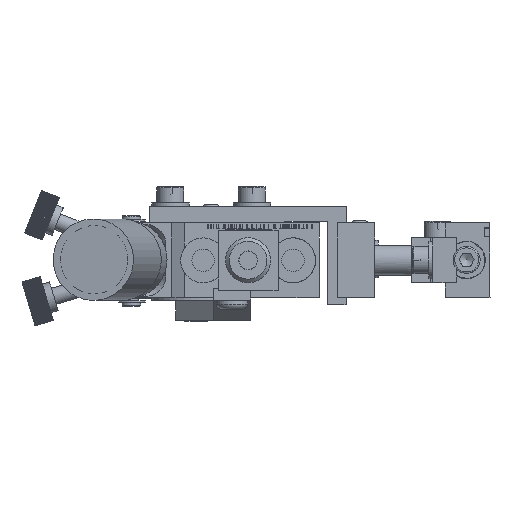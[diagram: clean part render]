
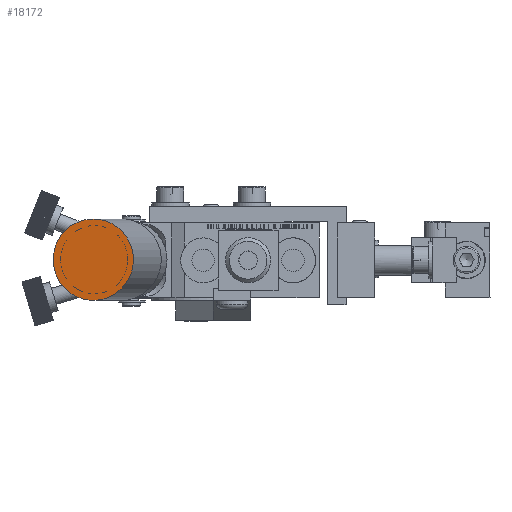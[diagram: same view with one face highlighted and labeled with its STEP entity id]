
A CAD part, front view. The second image highlights one B-rep face of the part: STEP entity #18172.
In plain terms, the highlighted planar face has unit normal (-0.174, -0.985, 0).
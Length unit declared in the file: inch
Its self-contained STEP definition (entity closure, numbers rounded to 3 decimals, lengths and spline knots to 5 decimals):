
#18136=CARTESIAN_POINT('',(-0.93754,-8.71993,-0.55726));
#18137=VERTEX_POINT('',#18136);
#18138=CARTESIAN_POINT('',(-0.8449,-8.73627,-0.23053));
#18139=DIRECTION('',(-0.174,-0.985,0.));
#18140=DIRECTION('',(0.272,-0.048,0.961));
#18141=AXIS2_PLACEMENT_3D('',#18138,#18139,#18140);
#18142=CIRCLE('',#18141,0.34);
#18143=EDGE_CURVE('',#18137,#18137,#18142,.T.);
#18164=CARTESIAN_POINT('',(-0.8449,-8.73627,-0.23053));
#18165=DIRECTION('',(-0.174,-0.985,0.));
#18166=DIRECTION('',(0.272,-0.048,0.961));
#18167=AXIS2_PLACEMENT_3D('',#18164,#18165,#18166);
#18168=PLANE('',#18167);
#18169=ORIENTED_EDGE('',*,*,#18143,.T.);
#18170=EDGE_LOOP('',(#18169));
#18171=FACE_OUTER_BOUND('',#18170,.T.);
#18172=ADVANCED_FACE('',(#18171),#18168,.T.);
